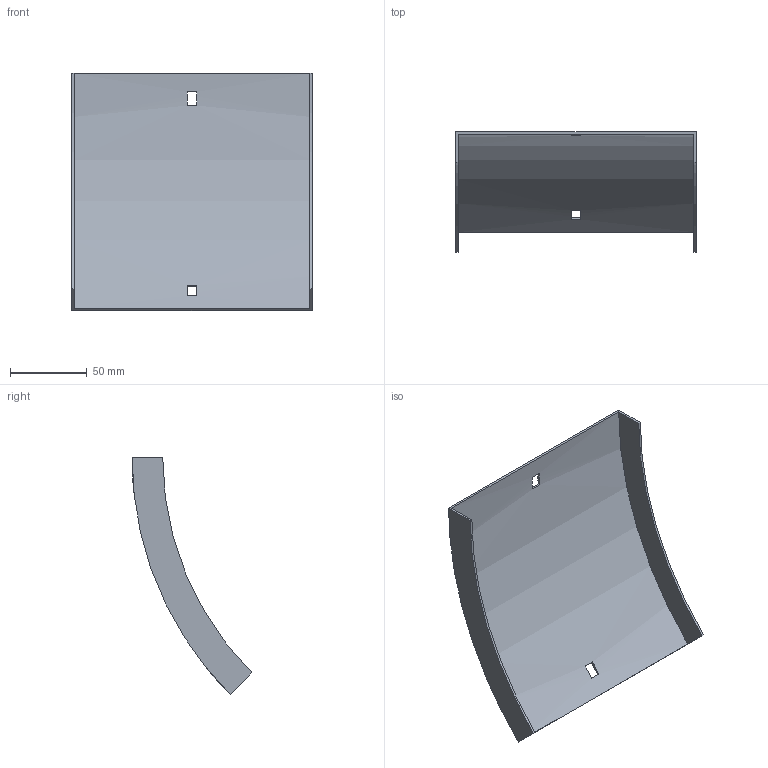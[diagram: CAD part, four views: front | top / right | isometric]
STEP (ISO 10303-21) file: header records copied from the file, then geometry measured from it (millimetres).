
FILE_DESCRIPTION (( 'STEP AP214' ), '1' );
FILE_NAME ('34N1J150.step', '2025-02-21T09:14:18', ( '' ), ( '' ), 'SwSTEP 2.0', 'SolidWorks 2023', '' );
FILE_SCHEMA (( 'AUTOMOTIVE_DESIGN' ));
Length unit declared in the file: millimetre
Products named in the file (1): 34N1J150
Bounding box: 157 x 78.29 x 154.86 mm (x, y, z)
Volume: 49269.3 mm3; surface area: 66838.3 mm2
Topology: 1 solids, 1 shells, 18 faces, 48 edges, 32 vertices
Faces by surface type: plane 14, cylinder 4
Entity records: 599 total; most frequent: DIRECTION 102, CARTESIAN_POINT 99, ORIENTED_EDGE 96, EDGE_CURVE 48, AXIS2_PLACEMENT_3D 35, VECTOR 32, VERTEX_POINT 32, LINE 32
